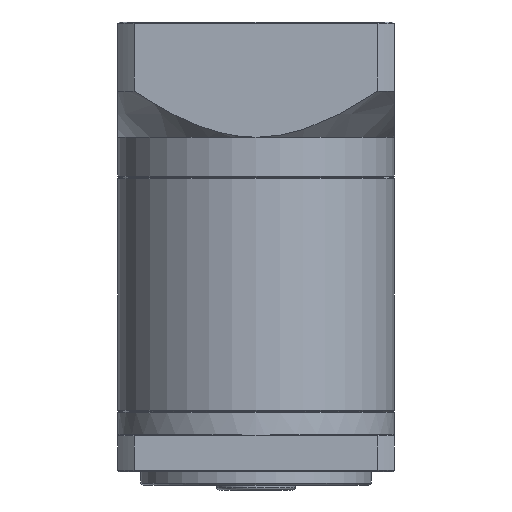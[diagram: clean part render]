
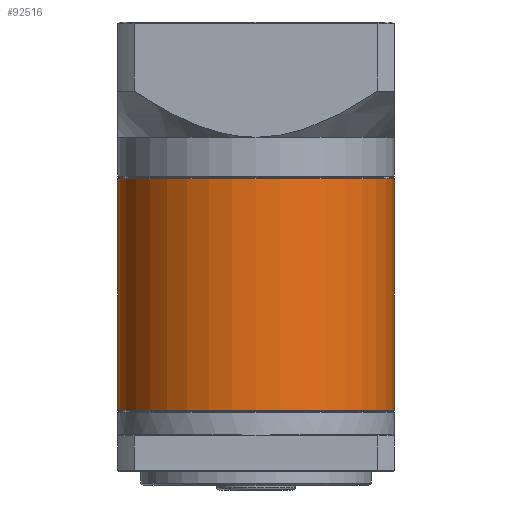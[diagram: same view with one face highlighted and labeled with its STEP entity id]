
A CAD part, front view. The second image highlights one B-rep face of the part: STEP entity #92516.
In plain terms, the highlighted cylindrical face has radius 30 mm (diameter 60 mm), a partial arc.
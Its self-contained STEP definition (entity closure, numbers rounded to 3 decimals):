
#452 = EDGE_LOOP ( 'NONE', ( #31077, #90387, #56554, #70216 ) ) ;
#3481 = LINE ( 'NONE', #81568, #73625 ) ;
#4325 = FACE_OUTER_BOUND ( 'NONE', #452, .T. ) ;
#5157 = DIRECTION ( 'NONE',  ( 0., 0., -1. ) ) ;
#7642 = VERTEX_POINT ( 'NONE', #9189 ) ;
#9189 = CARTESIAN_POINT ( 'NONE',  ( -87.925, 22.909, -67.587 ) ) ;
#15546 = CARTESIAN_POINT ( 'NONE',  ( -27.925, 22.909, -67.587 ) ) ;
#16163 = LINE ( 'NONE', #69366, #69895 ) ;
#19202 = DIRECTION ( 'NONE',  ( 0., 0., -1. ) ) ;
#21618 = CIRCLE ( 'NONE', #22523, 30. ) ;
#22523 = AXIS2_PLACEMENT_3D ( 'NONE', #70820, #62310, #62626 ) ;
#24329 = DIRECTION ( 'NONE',  ( 0., 0., -1. ) ) ;
#27397 = CARTESIAN_POINT ( 'NONE',  ( -57.925, 22.909, -17.287 ) ) ;
#31077 = ORIENTED_EDGE ( 'NONE', *, *, #35551, .F. ) ;
#33590 = EDGE_CURVE ( 'NONE', #7642, #45094, #21618, .T. ) ;
#33662 = DIRECTION ( 'NONE',  ( 1., 0., 0. ) ) ;
#34597 = VERTEX_POINT ( 'NONE', #46116 ) ;
#35551 = EDGE_CURVE ( 'NONE', #40784, #45094, #3481, .T. ) ;
#40784 = VERTEX_POINT ( 'NONE', #53979 ) ;
#45094 = VERTEX_POINT ( 'NONE', #15546 ) ;
#46116 = CARTESIAN_POINT ( 'NONE',  ( -87.925, 22.909, -17.287 ) ) ;
#49289 = AXIS2_PLACEMENT_3D ( 'NONE', #27397, #19202, #33662 ) ;
#53979 = CARTESIAN_POINT ( 'NONE',  ( -27.925, 22.909, -17.287 ) ) ;
#56449 = DIRECTION ( 'NONE',  ( -1., 0., 0. ) ) ;
#56554 = ORIENTED_EDGE ( 'NONE', *, *, #69649, .T. ) ;
#59227 = DIRECTION ( 'NONE',  ( 0., 0., -1. ) ) ;
#60339 = CIRCLE ( 'NONE', #49289, 30. ) ;
#62310 = DIRECTION ( 'NONE',  ( 0., 0., 1. ) ) ;
#62626 = DIRECTION ( 'NONE',  ( 1., 0., 0. ) ) ;
#69366 = CARTESIAN_POINT ( 'NONE',  ( -87.925, 22.909, -17.037 ) ) ;
#69649 = EDGE_CURVE ( 'NONE', #34597, #7642, #16163, .T. ) ;
#69895 = VECTOR ( 'NONE', #24329, 1000. ) ;
#70216 = ORIENTED_EDGE ( 'NONE', *, *, #33590, .T. ) ;
#70820 = CARTESIAN_POINT ( 'NONE',  ( -57.925, 22.909, -67.587 ) ) ;
#73625 = VECTOR ( 'NONE', #59227, 1000. ) ;
#74427 = AXIS2_PLACEMENT_3D ( 'NONE', #79394, #5157, #56449 ) ;
#79394 = CARTESIAN_POINT ( 'NONE',  ( -57.925, 22.909, -17.037 ) ) ;
#81568 = CARTESIAN_POINT ( 'NONE',  ( -27.925, 22.909, -17.037 ) ) ;
#90387 = ORIENTED_EDGE ( 'NONE', *, *, #92519, .T. ) ;
#92516 = ADVANCED_FACE ( 'NONE', ( #4325 ), #96696, .T. ) ;
#92519 = EDGE_CURVE ( 'NONE', #40784, #34597, #60339, .T. ) ;
#96696 = CYLINDRICAL_SURFACE ( 'NONE', #74427, 30. ) ;
